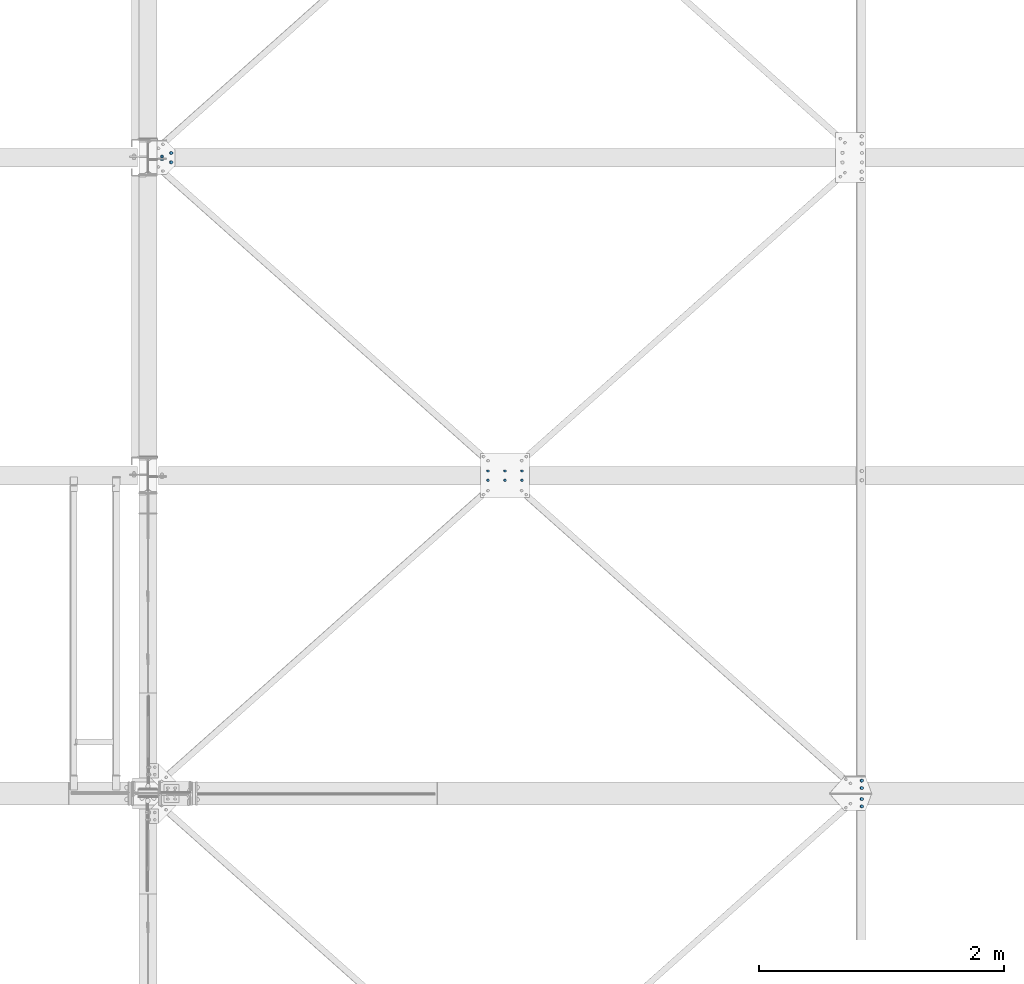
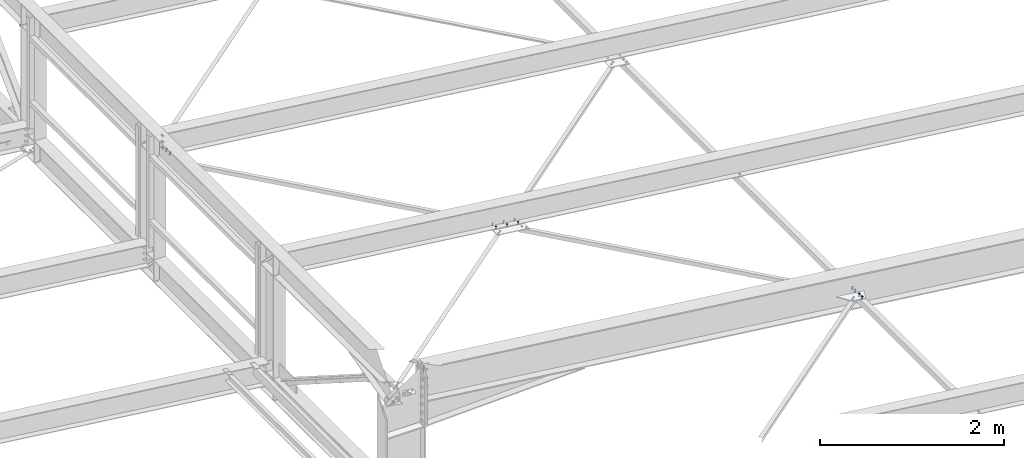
# One storey, part 251 of 3134: 5 mechanical fasteners, 3 elements without a shape of their own.
"""IFC2X3 building model written with IfcOpenShell, lengths in millimetres."""

import ifcopenshell
import ifcopenshell.guid

model = None  # the IFC model being written
_history = None  # IfcOwnerHistory: only IFC2X3 demands one
_inside = {}  # id of a spatial element -> (the spatial element, [elements in it])
_under = {}  # id of a project, library or spatial element -> (it, [spatial elements below it])
_declared = {}  # id of a project -> (the project, [libraries it declares])
_typed = {}  # id of a type object -> (the type object, [elements of that type])
_made_of = {}  # id of a material, layer set ... -> (it, [elements and type objects made of it])


def new_model(schema):
    """Start an empty IFC model of exactly this schema.

    Asked for "IFC4X3", IfcOpenShell would pick the latest addendum, in which some entities
    have other attributes; the version numbers below select the first issue.
    IFC2X3 requires an IfcOwnerHistory on every rooted entity: one is made here for all.
    """
    global model, _history
    if schema == "IFC4X3":
        model = ifcopenshell.file(schema_version=(4, 3, 0, 0))
    else:
        model = ifcopenshell.file(schema=schema)
    _inside.clear()
    _under.clear()
    _declared.clear()
    _typed.clear()
    _made_of.clear()
    _history = None
    if model.schema == "IFC2X3":
        org = make("IfcOrganization", Name="unknown")
        user = make(
            "IfcPersonAndOrganization",
            ThePerson=make("IfcPerson", FamilyName="unknown"),
            TheOrganization=org,
        )
        app = make(
            "IfcApplication",
            ApplicationDeveloper=org,
            Version="unknown",
            ApplicationFullName="unknown",
            ApplicationIdentifier="unknown",
        )
        _history = make(
            "IfcOwnerHistory",
            OwningUser=user,
            OwningApplication=app,
            ChangeAction="ADDED",
            CreationDate=0,
        )
    return model


def make(cls, **values):
    """One entity of the class cls with the attributes given. An attribute that is None is left unset."""
    return model.create_entity(
        cls, **{name: value for name, value in values.items() if value is not None}
    )


def rooted(cls, **values):
    """An entity with a GlobalId (a new one), such as an element, a storey or a relation."""
    return make(cls, GlobalId=ifcopenshell.guid.new(), OwnerHistory=_history, **values)


def si_unit(unit_type, name, prefix=None):
    """IfcSIUnit, for example si_unit("LENGTHUNIT", "METRE", prefix="MILLI")."""
    return make("IfcSIUnit", UnitType=unit_type, Prefix=prefix, Name=name)


def assignment(units):
    """IfcUnitAssignment: the units of a project."""
    return None if units is None else make("IfcUnitAssignment", Units=units)


def point(xyz):
    """IfcCartesianPoint."""
    return None if xyz is None else make("IfcCartesianPoint", Coordinates=xyz)


def direction(xyz):
    """IfcDirection."""
    return None if xyz is None else make("IfcDirection", DirectionRatios=xyz)


def frame(location, z_axis=None, x_axis=None):
    """IfcAxis2Placement3D, a coordinate frame: its origin and axes. An axis left out is left unset."""
    return make(
        "IfcAxis2Placement3D",
        Location=point(location),
        Axis=direction(z_axis),
        RefDirection=direction(x_axis),
    )


def origin_with_axes():
    """The frame at (0, 0, 0) with the z axis (0, 0, 1) and the x axis (1, 0, 0) written out."""
    return frame((0.0, 0.0, 0.0), z_axis=(0.0, 0.0, 1.0), x_axis=(1.0, 0.0, 0.0))


def place(relative_to, where):
    """IfcLocalPlacement: puts the frame where relative to a parent placement (None: the world)."""
    return make(
        "IfcLocalPlacement", PlacementRelTo=relative_to, RelativePlacement=where
    )


def context(
    kind, dimensions, precision=None, world=None, true_north=None, identifier=None
):
    """IfcGeometricRepresentationContext, for example the 3D "Model" context."""
    return make(
        "IfcGeometricRepresentationContext",
        ContextIdentifier=identifier,
        ContextType=kind,
        CoordinateSpaceDimension=dimensions,
        Precision=precision,
        WorldCoordinateSystem=world,
        TrueNorth=true_north,
    )


def subcontext(parent, identifier, kind, view, scale=None):
    """IfcGeometricRepresentationSubContext, for example "Body" below "Model"."""
    return make(
        "IfcGeometricRepresentationSubContext",
        ContextIdentifier=identifier,
        ContextType=kind,
        ParentContext=parent,
        TargetScale=scale,
        TargetView=view,
    )


def project(units=None, contexts=None):
    """IfcProject with its units and contexts."""
    return rooted(
        "IfcProject",
        Name="project",
        RepresentationContexts=contexts,
        UnitsInContext=assignment(units),
    )


def spatial(cls, under=None, at=None, **own):
    """A site, building, storey or space (cls), placed at a placement, below another one or the project."""
    s = rooted(cls, ObjectPlacement=at, **own)
    if under is not None:
        _under.setdefault(under.id(), (under, []))[1].append(s)
    return s


def faces_of(points, faces, orient=None, outer=None):
    """IfcFace entities. A face is a list of loops; a loop is a list of indices into points, from 0.

    orient and outer hold one flag for each loop. By default every Orientation is true, the
    first loop of a face is its IfcFaceOuterBound and the others are IfcFaceBound.
    """
    made = []
    for i, loops in enumerate(faces):
        bounds = []
        for j, loop in enumerate(loops):
            is_outer = j == 0 if outer is None else outer[i][j]
            bounds.append(
                make(
                    "IfcFaceOuterBound" if is_outer else "IfcFaceBound",
                    Bound=make("IfcPolyLoop", Polygon=[points[k] for k in loop]),
                    Orientation=True if orient is None else orient[i][j],
                )
            )
        made.append(make("IfcFace", Bounds=bounds))
    return made


def faceted_brep(points, faces, orient=None, outer=None, voids=None):
    """IfcFacetedBrep: a solid bounded by flat faces; with voids (closed shells), ...WithVoids."""
    shared = [point(p) for p in points]
    hull = make("IfcClosedShell", CfsFaces=faces_of(shared, faces, orient, outer))
    if voids is None:
        return make("IfcFacetedBrep", Outer=hull)
    return make(
        "IfcFacetedBrepWithVoids",
        Outer=hull,
        Voids=[
            make(cls, CfsFaces=faces_of(shared, fs, o, b)) for cls, fs, o, b in voids
        ],
    )


def shape(context_of_items, identifier, shape_type, items):
    """IfcShapeRepresentation: the items that make up one representation, for example the "Body"."""
    return make(
        "IfcShapeRepresentation",
        ContextOfItems=context_of_items,
        RepresentationIdentifier=identifier,
        RepresentationType=shape_type,
        Items=items,
    )


def source(mapping_origin, context_of_items, identifier, shape_type, items):
    """IfcRepresentationMap: a shape defined once, which mapped items show again and again."""
    return make(
        "IfcRepresentationMap",
        MappingOrigin=mapping_origin,
        MappedRepresentation=shape(context_of_items, identifier, shape_type, items),
    )


def transform(
    local_origin,
    x_axis=None,
    y_axis=None,
    z_axis=None,
    scale=None,
    scale2=None,
    scale3=None,
    uniform=True,
):
    """IfcCartesianTransformationOperator3D, or its non-uniform kind. x_axis, y_axis, z_axis: its Axis1, 2, 3."""
    if uniform:
        return make(
            "IfcCartesianTransformationOperator3D",
            Axis1=direction(x_axis),
            Axis2=direction(y_axis),
            LocalOrigin=point(local_origin),
            Scale=scale,
            Axis3=direction(z_axis),
        )
    return make(
        "IfcCartesianTransformationOperator3DnonUniform",
        Axis1=direction(x_axis),
        Axis2=direction(y_axis),
        LocalOrigin=point(local_origin),
        Scale=scale,
        Axis3=direction(z_axis),
        Scale2=scale2,
        Scale3=scale3,
    )


def mapped(mapping_source, mapping_target):
    """IfcMappedItem: shows the shape of a source again, moved by a transform."""
    return make(
        "IfcMappedItem", MappingSource=mapping_source, MappingTarget=mapping_target
    )


def material(Name=None, Category=None):
    """IfcMaterial."""
    return make("IfcMaterial", Name=Name, Category=Category)


def made_of(thing, what):
    """Note that an element or type object is made of a material, layer set ...; save() writes the relation."""
    if what is not None:
        _made_of.setdefault(what.id(), (what, []))[1].append(thing)
    return thing


def type_object(cls, material=None, **own):
    """A type object (cls), such as IfcWallType, which elements share."""
    return made_of(rooted(cls, **own), material)


def element(
    cls,
    number,
    at=None,
    inside=None,
    cuts=None,
    type_object=None,
    material=None,
    context=None,
    identifier="Body",
    shape_type=None,
    held_by="IfcProductDefinitionShape",
    body=None,
    shapes=None,
    **own,
):
    """One element of the class cls, such as IfcWall. Its Tag is "e" and its number.

    at: its placement. inside: the storey or other place that contains it. cuts: it is an
    opening in that element (IfcRelVoidsElement). A single representation is given by context,
    identifier, shape_type and body (its items); several are given by shapes. held_by: the class
    of the entity that holds the representations. save() writes the other relations.
    """
    e = rooted(cls, Tag="e%d" % number, ObjectPlacement=at, **own)
    if body is not None:
        shapes = [shape(context, identifier, shape_type, body)]
    if shapes is not None:
        e.Representation = make(held_by, Representations=shapes)
    if inside is not None:
        _inside.setdefault(inside.id(), (inside, []))[1].append(e)
    if cuts is not None:
        rooted(
            "IfcRelVoidsElement", RelatingBuildingElement=cuts, RelatedOpeningElement=e
        )
    if type_object is not None:
        _typed.setdefault(type_object.id(), (type_object, []))[1].append(e)
    return made_of(e, material)


def aggregate(whole, parts):
    """IfcRelAggregates: a whole, such as a stair, and the parts it consists of."""
    return rooted("IfcRelAggregates", RelatingObject=whole, RelatedObjects=parts)


def save(model, path):
    """Write the relations noted so far, then the file.

    IfcRelAggregates (storeys below a building ...), IfcRelContainedInSpatialStructure (elements
    in a storey), IfcRelDefinesByType, IfcRelAssociatesMaterial and IfcRelDeclares: one each for
    every whole, place, type object, material and project.
    """
    for whole, parts in _under.values():
        aggregate(whole, parts)
    for where, things in _inside.values():
        rooted(
            "IfcRelContainedInSpatialStructure",
            RelatedElements=things,
            RelatingStructure=where,
        )
    for kind, things in _typed.values():
        rooted("IfcRelDefinesByType", RelatedObjects=things, RelatingType=kind)
    for what, things in _made_of.values():
        rooted("IfcRelAssociatesMaterial", RelatedObjects=things, RelatingMaterial=what)
    for by, libraries in _declared.values():
        rooted("IfcRelDeclares", RelatingContext=by, RelatedDefinitions=libraries)
    model.write(path)


model = new_model("IFC2X3")

# Units and contexts
model_context = context("Model", 3, precision=1e-05, world=origin_with_axes())
body_context = subcontext(model_context, "Body", "Model", "MODEL_VIEW")
ifc_project = project(units=[si_unit("LENGTHUNIT", "METRE", prefix="MILLI"), si_unit("AREAUNIT", "SQUARE_METRE"), si_unit("VOLUMEUNIT", "CUBIC_METRE"), si_unit("MASSUNIT", "GRAM", prefix="KILO"), si_unit("TIMEUNIT", "SECOND"), si_unit("PLANEANGLEUNIT", "RADIAN"), si_unit("SOLIDANGLEUNIT", "STERADIAN"), si_unit("THERMODYNAMICTEMPERATUREUNIT", "DEGREE_CELSIUS"), si_unit("LUMINOUSINTENSITYUNIT", "LUMEN")], contexts=[model_context])

# Site, building, storey
site_placement = place(None, origin_with_axes())
site = spatial("IfcSite", under=ifc_project, at=site_placement, CompositionType="ELEMENT")
building_placement = place(site_placement, origin_with_axes())
building = spatial("IfcBuilding", under=site, at=building_placement, Name="Undefined", CompositionType="ELEMENT")
storey_placement = place(building_placement, origin_with_axes())
storey = spatial("IfcBuildingStorey", under=building, at=storey_placement, Name="Undefined", CompositionType="ELEMENT", Elevation=0.0)

# Assembly, mechanical fastener
assembly_1_placement = place(storey_placement, origin_with_axes())
assembly_1 = element("IfcElementAssembly", 1, at=assembly_1_placement, inside=storey, Name="300", AssemblyPlace="NOTDEFINED", PredefinedType="RIGID_FRAME")
ifc_material = material(Name="8.8")
mechanical_fastener_type = type_object("IfcMechanicalFastenerType", Name="Bolt assembly")
shared_shape_1 = source(origin_with_axes(), body_context, "Body", "Brep", [
    faceted_brep([(13.856406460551, -19.199990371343, 0.0), (6.92820323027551, -19.199990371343, 12.0), (-6.92820323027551, -19.199990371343, 12.0), (-13.856406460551, -19.199990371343, 1.69692038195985e-15), (-6.92820323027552, -19.199990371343, -12.0), (6.9282032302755, -19.199990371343, -12.0), (6.9282032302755, -9.19999037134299, -12.0), (-6.92820323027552, -9.19999037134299, -12.0), (-13.856406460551, -9.19999037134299, 1.69692038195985e-15), (-6.92820323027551, -9.19999037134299, 12.0), (6.92820323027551, -9.19999037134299, 12.0), (13.856406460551, -9.19999037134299, 0.0), (8.0, -9.19999037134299, 0.0), (6.92820323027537, -9.19999037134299, 4.00000000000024), (3.99999999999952, -9.19999037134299, 6.92820323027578), (-8.29068785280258e-13, -9.19999037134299, 8.0), (-4.00000000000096, -9.19999037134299, 6.92820323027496), (-6.9282032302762, -9.19999037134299, 3.99999999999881), (-8.0, -9.19999037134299, -1.65813757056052e-12), (-6.92820323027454, -9.19999037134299, -4.00000000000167), (-3.99999999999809, -9.19999037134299, -6.92820323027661), (2.47832457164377e-12, -9.19999037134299, -8.0), (4.00000000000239, -9.19999037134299, -6.92820323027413), (6.92820323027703, -9.19999037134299, -3.99999999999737), (6.92820323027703, 25.800009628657, -3.99999999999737), (4.00000000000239, 25.800009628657, -6.92820323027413), (2.47832457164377e-12, 25.800009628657, -8.0), (-3.99999999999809, 25.800009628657, -6.92820323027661), (-6.92820323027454, 25.800009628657, -4.00000000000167), (-8.0, 25.800009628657, -1.65813757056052e-12), (-6.9282032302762, 25.800009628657, 3.99999999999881), (-4.00000000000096, 25.800009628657, 6.92820323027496), (-8.29068785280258e-13, 25.800009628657, 8.0), (3.99999999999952, 25.800009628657, 6.92820323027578), (6.92820323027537, 25.800009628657, 4.00000000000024), (8.0, 25.800009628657, 0.0), (13.856406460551, 8.00000637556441, 0.0), (6.92820323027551, 8.00000637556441, 12.0), (-6.92820323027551, 8.00000637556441, 12.0), (-13.856406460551, 8.00000637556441, 1.69692038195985e-15), (-6.92820323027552, 8.00000637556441, -12.0), (6.9282032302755, 8.00000637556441, -12.0), (6.9282032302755, 21.0000063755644, -12.0), (-6.92820323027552, 21.0000063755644, -12.0), (-13.856406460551, 21.0000063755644, 1.69692038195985e-15), (-6.92820323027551, 21.0000063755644, 12.0), (6.92820323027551, 21.0000063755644, 12.0), (13.856406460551, 21.0000063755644, 0.0)], [[[0, 1, 2, 3, 4, 5]], [[6, 7, 8, 9, 10, 11]], [[0, 11, 10, 1]], [[1, 10, 9, 2]], [[2, 9, 8, 3]], [[3, 8, 7, 4]], [[4, 7, 6, 5]], [[5, 6, 11, 0]], [[12, 13, 14, 15, 16, 17, 18, 19, 20, 21, 22, 23]], [[24, 25, 26, 27, 28, 29, 30, 31, 32, 33, 34, 35]], [[12, 35, 34, 13]], [[13, 34, 33, 14]], [[14, 33, 32, 15]], [[15, 32, 31, 16]], [[16, 31, 30, 17]], [[17, 30, 29, 18]], [[18, 29, 28, 19]], [[19, 28, 27, 20]], [[20, 27, 26, 21]], [[21, 26, 25, 22]], [[22, 25, 24, 23]], [[23, 24, 35, 12]], [[36, 37, 38, 39, 40, 41]], [[42, 43, 44, 45, 46, 47]], [[36, 47, 46, 37]], [[37, 46, 45, 38]], [[38, 45, 44, 39]], [[39, 44, 43, 40]], [[40, 43, 42, 41]], [[41, 42, 47, 36]]]),
    faceted_brep([(9.0, -0.1, 0.0), (7.79422863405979, -0.1, 4.50000000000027), (4.49999999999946, -0.1, 7.79422863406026), (-9.3270238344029e-13, -0.1, 9.0), (-4.50000000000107, -0.1, 7.79422863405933), (-7.79422863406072, -0.1, 4.49999999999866), (-9.0, -0.1, -1.86540476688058e-12), (-7.79422863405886, -0.1, -4.50000000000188), (-4.49999999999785, -0.1, -7.79422863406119), (2.78811514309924e-12, -0.1, -9.0), (4.50000000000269, -0.1, -7.7942286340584), (7.79422863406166, -0.1, -4.49999999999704), (7.79422863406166, 8.00000000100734, -4.49999999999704), (4.50000000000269, 8.00000000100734, -7.7942286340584), (2.78811514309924e-12, 8.00000000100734, -9.0), (-4.49999999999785, 8.00000000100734, -7.79422863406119), (-7.79422863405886, 8.00000000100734, -4.50000000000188), (-9.0, 8.00000000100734, -1.86540476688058e-12), (-7.79422863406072, 8.00000000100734, 4.49999999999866), (-4.50000000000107, 8.00000000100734, 7.79422863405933), (-9.3270238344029e-13, 8.00000000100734, 9.0), (4.49999999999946, 8.00000000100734, 7.79422863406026), (7.79422863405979, 8.00000000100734, 4.50000000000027), (9.0, 8.00000000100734, 0.0), (9.0, -9.09999037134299, 0.0), (7.79422863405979, -9.09999037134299, 4.50000000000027), (4.49999999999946, -9.09999037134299, 7.79422863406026), (-9.3270238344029e-13, -9.09999037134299, 9.0), (-4.50000000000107, -9.09999037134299, 7.79422863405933), (-7.79422863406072, -9.09999037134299, 4.49999999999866), (-9.0, -9.09999037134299, -1.86540476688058e-12), (-7.79422863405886, -9.09999037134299, -4.50000000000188), (-4.49999999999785, -9.09999037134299, -7.79422863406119), (2.78811514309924e-12, -9.09999037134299, -9.0), (4.50000000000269, -9.09999037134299, -7.7942286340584), (7.79422863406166, -9.09999037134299, -4.49999999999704), (7.79422863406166, 0.100000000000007, -4.49999999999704), (4.50000000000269, 0.100000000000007, -7.7942286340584), (2.78811514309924e-12, 0.100000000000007, -9.0), (-4.49999999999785, 0.100000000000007, -7.79422863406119), (-7.79422863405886, 0.100000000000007, -4.50000000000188), (-9.0, 0.100000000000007, -1.86540476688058e-12), (-7.79422863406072, 0.100000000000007, 4.49999999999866), (-4.50000000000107, 0.100000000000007, 7.79422863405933), (-9.3270238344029e-13, 0.100000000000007, 9.0), (4.49999999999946, 0.100000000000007, 7.79422863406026), (7.79422863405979, 0.100000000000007, 4.50000000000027), (9.0, 0.100000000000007, 0.0)], [[[0, 1, 2, 3, 4, 5, 6, 7, 8, 9, 10, 11]], [[12, 13, 14, 15, 16, 17, 18, 19, 20, 21, 22, 23]], [[0, 23, 22, 1]], [[1, 22, 21, 2]], [[2, 21, 20, 3]], [[3, 20, 19, 4]], [[4, 19, 18, 5]], [[5, 18, 17, 6]], [[6, 17, 16, 7]], [[7, 16, 15, 8]], [[8, 15, 14, 9]], [[9, 14, 13, 10]], [[10, 13, 12, 11]], [[11, 12, 23, 0]], [[24, 25, 26, 27, 28, 29, 30, 31, 32, 33, 34, 35]], [[36, 37, 38, 39, 40, 41, 42, 43, 44, 45, 46, 47]], [[24, 47, 46, 25]], [[25, 46, 45, 26]], [[26, 45, 44, 27]], [[27, 44, 43, 28]], [[28, 43, 42, 29]], [[29, 42, 41, 30]], [[30, 41, 40, 31]], [[31, 40, 39, 32]], [[32, 39, 38, 33]], [[33, 38, 37, 34]], [[34, 37, 36, 35]], [[35, 36, 47, 24]]]),
])
mechanical_fastener_1_placement = place(assembly_1_placement, frame((32714.2248161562, 45487.9995130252, 5496.68063428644), z_axis=(0.992623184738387, 1.63108538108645e-05, -0.12124031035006), x_axis=(1.62000016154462e-05, -0.999999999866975, -1.90000018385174e-06)))
mechanical_fastener_1 = element("IfcMechanicalFastener", 2, at=mechanical_fastener_1_placement, type_object=mechanical_fastener_type, material=ifc_material, Name="Bolt assembly", NominalDiameter=16.0, NominalLength=35.0, context=body_context, shape_type="MappedRepresentation", body=[
    mapped(shared_shape_1, transform((0.0, 0.0, 0.0))),
    mapped(shared_shape_1, transform((76.0, 0.0, 0.0))),
])

# Assembly, mechanical fasteners
assembly_2_placement = place(storey_placement, origin_with_axes())
assembly_2 = element("IfcElementAssembly", 3, at=assembly_2_placement, inside=storey, Name="IPE450", AssemblyPlace="NOTDEFINED", PredefinedType="RIGID_FRAME")
shared_shape_2 = source(origin_with_axes(), body_context, "Body", "Brep", [
    faceted_brep([(13.856406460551, -10.0, 0.0), (6.92820323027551, -10.0, 12.0), (-6.92820323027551, -10.0, 12.0), (-13.856406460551, -10.0, 1.69692038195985e-15), (-6.92820323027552, -10.0, -12.0), (6.9282032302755, -10.0, -12.0), (6.9282032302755, 0.0, -12.0), (-6.92820323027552, 0.0, -12.0), (-13.856406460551, 0.0, 1.69692038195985e-15), (-6.92820323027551, 0.0, 12.0), (6.92820323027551, 0.0, 12.0), (13.856406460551, 0.0, 0.0), (8.0, 0.0, 0.0), (6.92820323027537, 0.0, 4.00000000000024), (3.99999999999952, 0.0, 6.92820323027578), (-8.29068785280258e-13, 0.0, 8.0), (-4.00000000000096, 0.0, 6.92820323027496), (-6.9282032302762, 0.0, 3.99999999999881), (-8.0, 0.0, -1.65813757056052e-12), (-6.92820323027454, 0.0, -4.00000000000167), (-3.99999999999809, 0.0, -6.92820323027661), (2.47832457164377e-12, 0.0, -8.0), (4.00000000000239, 0.0, -6.92820323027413), (6.92820323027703, 0.0, -3.99999999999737), (6.92820323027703, 35.0000000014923, -3.99999999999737), (4.00000000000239, 35.0000000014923, -6.92820323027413), (2.47832457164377e-12, 35.0000000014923, -8.0), (-3.99999999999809, 35.0000000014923, -6.92820323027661), (-6.92820323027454, 35.0000000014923, -4.00000000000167), (-8.0, 35.0000000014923, -1.65813757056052e-12), (-6.9282032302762, 35.0000000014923, 3.99999999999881), (-4.00000000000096, 35.0000000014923, 6.92820323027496), (-8.29068785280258e-13, 35.0000000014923, 8.0), (3.99999999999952, 35.0000000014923, 6.92820323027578), (6.92820323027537, 35.0000000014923, 4.00000000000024), (8.0, 35.0000000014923, 0.0), (13.856406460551, 14.9990000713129, 0.0), (6.92820323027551, 14.9990000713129, 12.0), (-6.92820323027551, 14.9990000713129, 12.0), (-13.856406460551, 14.9990000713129, 1.69692038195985e-15), (-6.92820323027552, 14.9990000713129, -12.0), (6.9282032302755, 14.9990000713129, -12.0), (6.9282032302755, 27.9990000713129, -12.0), (-6.92820323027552, 27.9990000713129, -12.0), (-13.856406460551, 27.9990000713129, 1.69692038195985e-15), (-6.92820323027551, 27.9990000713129, 12.0), (6.92820323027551, 27.9990000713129, 12.0), (13.856406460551, 27.9990000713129, 0.0)], [[[0, 1, 2, 3, 4, 5]], [[6, 7, 8, 9, 10, 11]], [[0, 11, 10, 1]], [[1, 10, 9, 2]], [[2, 9, 8, 3]], [[3, 8, 7, 4]], [[4, 7, 6, 5]], [[5, 6, 11, 0]], [[12, 13, 14, 15, 16, 17, 18, 19, 20, 21, 22, 23]], [[24, 25, 26, 27, 28, 29, 30, 31, 32, 33, 34, 35]], [[12, 35, 34, 13]], [[13, 34, 33, 14]], [[14, 33, 32, 15]], [[15, 32, 31, 16]], [[16, 31, 30, 17]], [[17, 30, 29, 18]], [[18, 29, 28, 19]], [[19, 28, 27, 20]], [[20, 27, 26, 21]], [[21, 26, 25, 22]], [[22, 25, 24, 23]], [[23, 24, 35, 12]], [[36, 37, 38, 39, 40, 41]], [[42, 43, 44, 45, 46, 47]], [[36, 47, 46, 37]], [[37, 46, 45, 38]], [[38, 45, 44, 39]], [[39, 44, 43, 40]], [[40, 43, 42, 41]], [[41, 42, 47, 36]]]),
    faceted_brep([(9.0, 7.89900007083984, 0.0), (7.79422863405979, 7.89900007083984, 4.50000000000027), (4.49999999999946, 7.89900007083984, 7.79422863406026), (-9.3270238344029e-13, 7.89900007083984, 9.0), (-4.50000000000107, 7.89900007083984, 7.79422863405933), (-7.79422863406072, 7.89900007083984, 4.49999999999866), (-9.0, 7.89900007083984, -1.86540476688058e-12), (-7.79422863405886, 7.89900007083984, -4.50000000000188), (-4.49999999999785, 7.89900007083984, -7.79422863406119), (2.78811514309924e-12, 7.89900007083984, -9.0), (4.50000000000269, 7.89900007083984, -7.7942286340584), (7.79422863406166, 7.89900007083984, -4.49999999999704), (7.79422863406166, 14.9990000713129, -4.49999999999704), (4.50000000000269, 14.9990000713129, -7.7942286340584), (2.78811514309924e-12, 14.9990000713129, -9.0), (-4.49999999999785, 14.9990000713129, -7.79422863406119), (-7.79422863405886, 14.9990000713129, -4.50000000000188), (-9.0, 14.9990000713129, -1.86540476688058e-12), (-7.79422863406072, 14.9990000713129, 4.49999999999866), (-4.50000000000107, 14.9990000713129, 7.79422863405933), (-9.3270238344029e-13, 14.9990000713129, 9.0), (4.49999999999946, 14.9990000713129, 7.79422863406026), (7.79422863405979, 14.9990000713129, 4.50000000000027), (9.0, 14.9990000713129, 0.0), (9.0, 0.100000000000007, 0.0), (7.79422863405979, 0.100000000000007, 4.50000000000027), (4.49999999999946, 0.100000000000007, 7.79422863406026), (-9.3270238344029e-13, 0.100000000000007, 9.0), (-4.50000000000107, 0.100000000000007, 7.79422863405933), (-7.79422863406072, 0.100000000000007, 4.49999999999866), (-9.0, 0.100000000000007, -1.86540476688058e-12), (-7.79422863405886, 0.100000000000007, -4.50000000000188), (-4.49999999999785, 0.100000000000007, -7.79422863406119), (2.78811514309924e-12, 0.100000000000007, -9.0), (4.50000000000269, 0.100000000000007, -7.7942286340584), (7.79422863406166, 0.100000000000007, -4.49999999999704), (7.79422863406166, 8.1, -4.49999999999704), (4.50000000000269, 8.1, -7.7942286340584), (2.78811514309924e-12, 8.1, -9.0), (-4.49999999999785, 8.1, -7.79422863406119), (-7.79422863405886, 8.1, -4.50000000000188), (-9.0, 8.1, -1.86540476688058e-12), (-7.79422863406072, 8.1, 4.49999999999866), (-4.50000000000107, 8.1, 7.79422863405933), (-9.3270238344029e-13, 8.1, 9.0), (4.49999999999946, 8.1, 7.79422863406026), (7.79422863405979, 8.1, 4.50000000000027), (9.0, 8.1, 0.0)], [[[0, 1, 2, 3, 4, 5, 6, 7, 8, 9, 10, 11]], [[12, 13, 14, 15, 16, 17, 18, 19, 20, 21, 22, 23]], [[0, 23, 22, 1]], [[1, 22, 21, 2]], [[2, 21, 20, 3]], [[3, 20, 19, 4]], [[4, 19, 18, 5]], [[5, 18, 17, 6]], [[6, 17, 16, 7]], [[7, 16, 15, 8]], [[8, 15, 14, 9]], [[9, 14, 13, 10]], [[10, 13, 12, 11]], [[11, 12, 23, 0]], [[24, 25, 26, 27, 28, 29, 30, 31, 32, 33, 34, 35]], [[36, 37, 38, 39, 40, 41, 42, 43, 44, 45, 46, 47]], [[24, 47, 46, 25]], [[25, 46, 45, 26]], [[26, 45, 44, 27]], [[27, 44, 43, 28]], [[28, 43, 42, 29]], [[29, 42, 41, 30]], [[30, 41, 40, 31]], [[31, 40, 39, 32]], [[32, 39, 38, 33]], [[33, 38, 37, 34]], [[34, 37, 36, 35]], [[35, 36, 47, 24]]]),
])
mechanical_fastener_2_placement = place(assembly_2_placement, frame((38362.9849611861, 40295.0, 4806.73358922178), z_axis=(-0.992623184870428, 0.0, 0.121240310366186), x_axis=(0.0, 1.0, 0.0)))
mechanical_fastener_2 = element("IfcMechanicalFastener", 4, at=mechanical_fastener_2_placement, type_object=mechanical_fastener_type, material=ifc_material, Name="Bolt assembly", NominalDiameter=16.0, NominalLength=35.0, context=body_context, shape_type="MappedRepresentation", body=[
    mapped(shared_shape_2, transform((0.0, 0.0, 0.0))),
    mapped(shared_shape_2, transform((59.9999999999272, 0.0, 5.40239852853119e-10))),
])
mechanical_fastener_3_placement = place(assembly_2_placement, frame((38362.9849611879, 40205.0, 4806.73358922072), z_axis=(0.992623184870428, 0.0, -0.121240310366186), x_axis=(0.0, -1.0, 0.0)))
mechanical_fastener_3 = element("IfcMechanicalFastener", 5, at=mechanical_fastener_3_placement, type_object=mechanical_fastener_type, material=ifc_material, Name="Bolt assembly", NominalDiameter=16.0, NominalLength=35.0, context=body_context, shape_type="MappedRepresentation", body=[
    mapped(shared_shape_2, transform((0.0, 0.0, 0.0))),
    mapped(shared_shape_2, transform((59.9999999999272, 0.0, 5.40239852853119e-10))),
])
aggregate(assembly_2, [mechanical_fastener_2, mechanical_fastener_3])

# Assembly, mechanical fastener
assembly_3_placement = place(storey_placement, origin_with_axes())
assembly_3 = element("IfcElementAssembly", 6, at=assembly_3_placement, inside=storey, Name="300", AssemblyPlace="NOTDEFINED", PredefinedType="RIGID_FRAME")
shared_shape_3 = source(origin_with_axes(), body_context, "Body", "Brep", [
    faceted_brep([(10.9696551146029, -17.1999998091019, 0.0), (5.48482755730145, -17.1999998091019, 9.5), (-5.48482755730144, -17.1999998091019, 9.5), (-10.9696551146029, -17.1999998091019, 1.34339530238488e-15), (-5.48482755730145, -17.1999998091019, -9.5), (5.48482755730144, -17.1999998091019, -9.50000000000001), (5.48482755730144, -9.19999978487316, -9.50000000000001), (-5.48482755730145, -9.19999978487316, -9.5), (-10.9696551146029, -9.19999978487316, 1.34339530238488e-15), (-5.48482755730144, -9.19999978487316, 9.5), (5.48482755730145, -9.19999978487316, 9.5), (10.9696551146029, -9.19999978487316, 0.0), (6.0, -9.19999978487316, 0.0), (5.19615242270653, -9.19999978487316, 3.00000000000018), (2.99999999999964, -9.19999978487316, 5.19615242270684), (-6.21801588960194e-13, -9.19999978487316, 6.0), (-3.00000000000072, -9.19999978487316, 5.19615242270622), (-5.19615242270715, -9.19999978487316, 2.9999999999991), (-6.0, -9.19999978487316, -1.24360317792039e-12), (-5.19615242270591, -9.19999978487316, -3.00000000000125), (-2.99999999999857, -9.19999978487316, -5.19615242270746), (1.85874342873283e-12, -9.19999978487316, -6.0), (3.00000000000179, -9.19999978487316, -5.1961524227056), (5.19615242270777, -9.19999978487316, -2.99999999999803), (5.19615242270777, 25.8000002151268, -2.99999999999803), (3.00000000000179, 25.8000002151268, -5.1961524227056), (1.85874342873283e-12, 25.8000002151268, -6.0), (-2.99999999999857, 25.8000002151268, -5.19615242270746), (-5.19615242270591, 25.8000002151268, -3.00000000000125), (-6.0, 25.8000002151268, -1.24360317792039e-12), (-5.19615242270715, 25.8000002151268, 2.9999999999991), (-3.00000000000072, 25.8000002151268, 5.19615242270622), (-6.21801588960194e-13, 25.8000002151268, 6.0), (2.99999999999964, 25.8000002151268, 5.19615242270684), (5.19615242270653, 25.8000002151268, 3.00000000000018), (6.0, 25.8000002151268, 0.0), (10.9696551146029, 8.0, 0.0), (5.48482755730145, 8.0, 9.5), (-5.48482755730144, 8.0, 9.5), (-10.9696551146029, 8.0, 1.34339530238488e-15), (-5.48482755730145, 8.0, -9.5), (5.48482755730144, 8.0, -9.50000000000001), (5.48482755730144, 18.0, -9.50000000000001), (-5.48482755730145, 18.0, -9.5), (-10.9696551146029, 18.0, 1.34339530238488e-15), (-5.48482755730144, 18.0, 9.5), (5.48482755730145, 18.0, 9.5), (10.9696551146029, 18.0, 0.0)], [[[0, 1, 2, 3, 4, 5]], [[6, 7, 8, 9, 10, 11]], [[0, 11, 10, 1]], [[1, 10, 9, 2]], [[2, 9, 8, 3]], [[3, 8, 7, 4]], [[4, 7, 6, 5]], [[5, 6, 11, 0]], [[12, 13, 14, 15, 16, 17, 18, 19, 20, 21, 22, 23]], [[24, 25, 26, 27, 28, 29, 30, 31, 32, 33, 34, 35]], [[12, 35, 34, 13]], [[13, 34, 33, 14]], [[14, 33, 32, 15]], [[15, 32, 31, 16]], [[16, 31, 30, 17]], [[17, 30, 29, 18]], [[18, 29, 28, 19]], [[19, 28, 27, 20]], [[20, 27, 26, 21]], [[21, 26, 25, 22]], [[22, 25, 24, 23]], [[23, 24, 35, 12]], [[36, 37, 38, 39, 40, 41]], [[42, 43, 44, 45, 46, 47]], [[36, 47, 46, 37]], [[37, 46, 45, 38]], [[38, 45, 44, 39]], [[39, 44, 43, 40]], [[40, 43, 42, 41]], [[41, 42, 47, 36]]]),
    faceted_brep([(7.0, -0.1, 0.0), (6.06217782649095, -0.1, 3.50000000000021), (3.49999999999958, -0.1, 6.06217782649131), (-7.25435187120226e-13, -0.1, 7.0), (-3.50000000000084, -0.1, 6.06217782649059), (-6.06217782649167, -0.1, 3.49999999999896), (-7.0, -0.1, -1.45087037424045e-12), (-6.06217782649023, -0.1, -3.50000000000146), (-3.49999999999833, -0.1, -6.06217782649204), (2.1685340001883e-12, -0.1, -7.0), (3.50000000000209, -0.1, -6.06217782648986), (6.0621778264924, -0.1, -3.4999999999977), (6.0621778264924, 8.0000000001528, -3.4999999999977), (3.50000000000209, 8.0000000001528, -6.06217782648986), (2.1685340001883e-12, 8.0000000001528, -7.0), (-3.49999999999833, 8.0000000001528, -6.06217782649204), (-6.06217782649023, 8.0000000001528, -3.50000000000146), (-7.0, 8.0000000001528, -1.45087037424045e-12), (-6.06217782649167, 8.0000000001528, 3.49999999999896), (-3.50000000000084, 8.0000000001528, 6.06217782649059), (-7.25435187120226e-13, 8.0000000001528, 7.0), (3.49999999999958, 8.0000000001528, 6.06217782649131), (6.06217782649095, 8.0000000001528, 3.50000000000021), (7.0, 8.0000000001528, 0.0), (7.0, -9.09999980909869, 0.0), (6.06217782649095, -9.09999980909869, 3.50000000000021), (3.49999999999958, -9.09999980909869, 6.06217782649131), (-7.25435187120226e-13, -9.09999980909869, 7.0), (-3.50000000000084, -9.09999980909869, 6.06217782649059), (-6.06217782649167, -9.09999980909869, 3.49999999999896), (-7.0, -9.09999980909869, -1.45087037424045e-12), (-6.06217782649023, -9.09999980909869, -3.50000000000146), (-3.49999999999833, -9.09999980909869, -6.06217782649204), (2.1685340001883e-12, -9.09999980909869, -7.0), (3.50000000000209, -9.09999980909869, -6.06217782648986), (6.0621778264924, -9.09999980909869, -3.4999999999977), (6.0621778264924, 0.0999999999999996, -3.4999999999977), (3.50000000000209, 0.0999999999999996, -6.06217782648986), (2.1685340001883e-12, 0.0999999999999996, -7.0), (-3.49999999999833, 0.0999999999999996, -6.06217782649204), (-6.06217782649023, 0.0999999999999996, -3.50000000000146), (-7.0, 0.0999999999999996, -1.45087037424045e-12), (-6.06217782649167, 0.0999999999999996, 3.49999999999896), (-3.50000000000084, 0.0999999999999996, 6.06217782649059), (-7.25435187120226e-13, 0.0999999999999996, 7.0), (3.49999999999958, 0.0999999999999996, 6.06217782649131), (6.06217782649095, 0.0999999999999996, 3.50000000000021), (7.0, 0.0999999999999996, 0.0)], [[[0, 1, 2, 3, 4, 5, 6, 7, 8, 9, 10, 11]], [[12, 13, 14, 15, 16, 17, 18, 19, 20, 21, 22, 23]], [[0, 23, 22, 1]], [[1, 22, 21, 2]], [[2, 21, 20, 3]], [[3, 20, 19, 4]], [[4, 19, 18, 5]], [[5, 18, 17, 6]], [[6, 17, 16, 7]], [[7, 16, 15, 8]], [[8, 15, 14, 9]], [[9, 14, 13, 10]], [[10, 13, 12, 11]], [[11, 12, 23, 0]], [[24, 25, 26, 27, 28, 29, 30, 31, 32, 33, 34, 35]], [[36, 37, 38, 39, 40, 41, 42, 43, 44, 45, 46, 47]], [[24, 47, 46, 25]], [[25, 46, 45, 26]], [[26, 45, 44, 27]], [[27, 44, 43, 28]], [[28, 43, 42, 29]], [[29, 42, 41, 30]], [[30, 41, 40, 31]], [[31, 40, 39, 32]], [[32, 39, 38, 33]], [[33, 38, 37, 34]], [[34, 37, 36, 35]], [[35, 36, 47, 24]]]),
])
mechanical_fastener_4_placement = place(assembly_3_placement, frame((35583.2022067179, 42850.0, 5146.25993624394), z_axis=(0.0, -1.0, 0.0), x_axis=(-0.992623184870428, 0.0, 0.121240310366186)))
mechanical_fastener_4 = element("IfcMechanicalFastener", 7, at=mechanical_fastener_4_placement, type_object=mechanical_fastener_type, material=ifc_material, Name="Bolt assembly", NominalDiameter=12.0, NominalLength=35.0, context=body_context, shape_type="MappedRepresentation", body=[
    mapped(shared_shape_3, transform((0.0, 0.0, -38.0))),
    mapped(shared_shape_3, transform((140.000000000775, 5.85714587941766e-10, -38.0))),
    mapped(shared_shape_3, transform((279.999999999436, -4.74756234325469e-10, -38.0))),
    mapped(shared_shape_3, transform((0.0, 0.0, 38.0))),
    mapped(shared_shape_3, transform((140.000000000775, 5.85714587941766e-10, 38.0))),
    mapped(shared_shape_3, transform((279.999999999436, -4.74756234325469e-10, 38.0))),
])
aggregate(assembly_3, [mechanical_fastener_4])

# Mechanical fastener
shared_shape_4 = source(origin_with_axes(), body_context, "Body", "Brep", [
    faceted_brep([(13.856406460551, -23.0499999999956, 0.0), (6.92820323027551, -23.0499999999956, 12.0), (-6.92820323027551, -23.0499999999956, 12.0), (-13.856406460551, -23.0499999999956, 1.69692038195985e-15), (-6.92820323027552, -23.0499999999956, -12.0), (6.9282032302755, -23.0499999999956, -12.0), (6.9282032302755, -13.0499999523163, -12.0), (-6.92820323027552, -13.0499999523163, -12.0), (-13.856406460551, -13.0499999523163, 1.69692038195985e-15), (-6.92820323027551, -13.0499999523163, 12.0), (6.92820323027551, -13.0499999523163, 12.0), (13.856406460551, -13.0499999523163, 0.0), (8.0, -13.0499999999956, 0.0), (6.92820323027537, -13.0499999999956, 4.00000000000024), (3.99999999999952, -13.0499999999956, 6.92820323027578), (-8.29068785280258e-13, -13.0499999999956, 8.0), (-4.00000000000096, -13.0499999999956, 6.92820323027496), (-6.9282032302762, -13.0499999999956, 3.99999999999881), (-8.0, -13.0499999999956, -1.65813757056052e-12), (-6.92820323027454, -13.0499999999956, -4.00000000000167), (-3.99999999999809, -13.0499999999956, -6.92820323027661), (2.47832457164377e-12, -13.0499999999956, -8.0), (4.00000000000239, -13.0499999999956, -6.92820323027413), (6.92820323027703, -13.0499999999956, -3.99999999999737), (6.92820323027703, 21.9500000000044, -3.99999999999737), (4.00000000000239, 21.9500000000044, -6.92820323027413), (2.47832457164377e-12, 21.9500000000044, -8.0), (-3.99999999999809, 21.9500000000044, -6.92820323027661), (-6.92820323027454, 21.9500000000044, -4.00000000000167), (-8.0, 21.9500000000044, -1.65813757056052e-12), (-6.9282032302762, 21.9500000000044, 3.99999999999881), (-4.00000000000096, 21.9500000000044, 6.92820323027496), (-8.29068785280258e-13, 21.9500000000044, 8.0), (3.99999999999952, 21.9500000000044, 6.92820323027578), (6.92820323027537, 21.9500000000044, 4.00000000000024), (8.0, 21.9500000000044, 0.0), (13.856406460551, 3.04999995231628, 0.0), (6.92820323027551, 3.04999995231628, 12.0), (-6.92820323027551, 3.04999995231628, 12.0), (-13.856406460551, 3.04999995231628, 1.69692038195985e-15), (-6.92820323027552, 3.04999995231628, -12.0), (6.9282032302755, 3.04999995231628, -12.0), (6.9282032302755, 16.0499999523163, -12.0), (-6.92820323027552, 16.0499999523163, -12.0), (-13.856406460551, 16.0499999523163, 1.69692038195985e-15), (-6.92820323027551, 16.0499999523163, 12.0), (6.92820323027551, 16.0499999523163, 12.0), (13.856406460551, 16.0499999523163, 0.0)], [[[0, 1, 2, 3, 4, 5]], [[6, 7, 8, 9, 10, 11]], [[0, 11, 10, 1]], [[1, 10, 9, 2]], [[2, 9, 8, 3]], [[3, 8, 7, 4]], [[4, 7, 6, 5]], [[5, 6, 11, 0]], [[12, 13, 14, 15, 16, 17, 18, 19, 20, 21, 22, 23]], [[24, 25, 26, 27, 28, 29, 30, 31, 32, 33, 34, 35]], [[12, 35, 34, 13]], [[13, 34, 33, 14]], [[14, 33, 32, 15]], [[15, 32, 31, 16]], [[16, 31, 30, 17]], [[17, 30, 29, 18]], [[18, 29, 28, 19]], [[19, 28, 27, 20]], [[20, 27, 26, 21]], [[21, 26, 25, 22]], [[22, 25, 24, 23]], [[23, 24, 35, 12]], [[36, 37, 38, 39, 40, 41]], [[42, 43, 44, 45, 46, 47]], [[36, 47, 46, 37]], [[37, 46, 45, 38]], [[38, 45, 44, 39]], [[39, 44, 43, 40]], [[40, 43, 42, 41]], [[41, 42, 47, 36]]]),
    faceted_brep([(9.0, -12.9499999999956, 0.0), (7.79422863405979, -12.9499999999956, 4.50000000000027), (4.49999999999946, -12.9499999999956, 7.79422863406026), (-9.3270238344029e-13, -12.9499999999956, 9.0), (-4.50000000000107, -12.9499999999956, 7.79422863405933), (-7.79422863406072, -12.9499999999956, 4.49999999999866), (-9.0, -12.9499999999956, -1.86540476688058e-12), (-7.79422863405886, -12.9499999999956, -4.50000000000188), (-4.49999999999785, -12.9499999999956, -7.79422863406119), (2.78811514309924e-12, -12.9499999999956, -9.0), (4.50000000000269, -12.9499999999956, -7.7942286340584), (7.79422863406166, -12.9499999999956, -4.49999999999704), (7.79422863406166, -2.94999995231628, -4.49999999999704), (4.50000000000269, -2.94999995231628, -7.7942286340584), (2.78811514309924e-12, -2.94999995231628, -9.0), (-4.49999999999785, -2.94999995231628, -7.79422863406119), (-7.79422863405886, -2.94999995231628, -4.50000000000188), (-9.0, -2.94999995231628, -1.86540476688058e-12), (-7.79422863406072, -2.94999995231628, 4.49999999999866), (-4.50000000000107, -2.94999995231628, 7.79422863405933), (-9.3270238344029e-13, -2.94999995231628, 9.0), (4.49999999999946, -2.94999995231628, 7.79422863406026), (7.79422863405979, -2.94999995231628, 4.50000000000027), (9.0, -2.94999995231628, 0.0), (9.0, -3.14999995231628, 0.0), (7.79422863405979, -3.14999995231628, 4.50000000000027), (4.49999999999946, -3.14999995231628, 7.79422863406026), (-9.3270238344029e-13, -3.14999995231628, 9.0), (-4.50000000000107, -3.14999995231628, 7.79422863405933), (-7.79422863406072, -3.14999995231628, 4.49999999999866), (-9.0, -3.14999995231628, -1.86540476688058e-12), (-7.79422863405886, -3.14999995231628, -4.50000000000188), (-4.49999999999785, -3.14999995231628, -7.79422863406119), (2.78811514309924e-12, -3.14999995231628, -9.0), (4.50000000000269, -3.14999995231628, -7.7942286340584), (7.79422863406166, -3.14999995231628, -4.49999999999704), (7.79422863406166, 3.04999995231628, -4.49999999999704), (4.50000000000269, 3.04999995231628, -7.7942286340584), (2.78811514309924e-12, 3.04999995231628, -9.0), (-4.49999999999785, 3.04999995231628, -7.79422863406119), (-7.79422863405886, 3.04999995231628, -4.50000000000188), (-9.0, 3.04999995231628, -1.86540476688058e-12), (-7.79422863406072, 3.04999995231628, 4.49999999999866), (-4.50000000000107, 3.04999995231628, 7.79422863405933), (-9.3270238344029e-13, 3.04999995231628, 9.0), (4.49999999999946, 3.04999995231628, 7.79422863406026), (7.79422863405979, 3.04999995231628, 4.50000000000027), (9.0, 3.04999995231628, 0.0)], [[[0, 1, 2, 3, 4, 5, 6, 7, 8, 9, 10, 11]], [[12, 13, 14, 15, 16, 17, 18, 19, 20, 21, 22, 23]], [[0, 23, 22, 1]], [[1, 22, 21, 2]], [[2, 21, 20, 3]], [[3, 20, 19, 4]], [[4, 19, 18, 5]], [[5, 18, 17, 6]], [[6, 17, 16, 7]], [[7, 16, 15, 8]], [[8, 15, 14, 9]], [[9, 14, 13, 10]], [[10, 13, 12, 11]], [[11, 12, 23, 0]], [[24, 25, 26, 27, 28, 29, 30, 31, 32, 33, 34, 35]], [[36, 37, 38, 39, 40, 41, 42, 43, 44, 45, 46, 47]], [[24, 47, 46, 25]], [[25, 46, 45, 26]], [[26, 45, 44, 27]], [[27, 44, 43, 28]], [[28, 43, 42, 29]], [[29, 42, 41, 30]], [[30, 41, 40, 31]], [[31, 40, 39, 32]], [[32, 39, 38, 33]], [[33, 38, 37, 34]], [[34, 37, 36, 35]], [[35, 36, 47, 24]]]),
])
mechanical_fastener_5_placement = place(assembly_1_placement, frame((32640.0, 45450.0, 5735.35014950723), z_axis=(1.0, 0.0, 0.0), x_axis=(0.0, 0.0, -1.0)))
mechanical_fastener_5 = element("IfcMechanicalFastener", 8, at=mechanical_fastener_5_placement, type_object=mechanical_fastener_type, material=ifc_material, Name="Bolt assembly", NominalDiameter=16.0, NominalLength=35.0, context=body_context, shape_type="MappedRepresentation", body=[
    mapped(shared_shape_4, transform((0.0, 0.0, 0.0))),
    mapped(shared_shape_4, transform((80.0, 0.0, 0.0))),
    mapped(shared_shape_4, transform((160.0, 0.0, 0.0))),
])

aggregate(assembly_1, [mechanical_fastener_1, mechanical_fastener_5])

save(model, "model.ifc")
